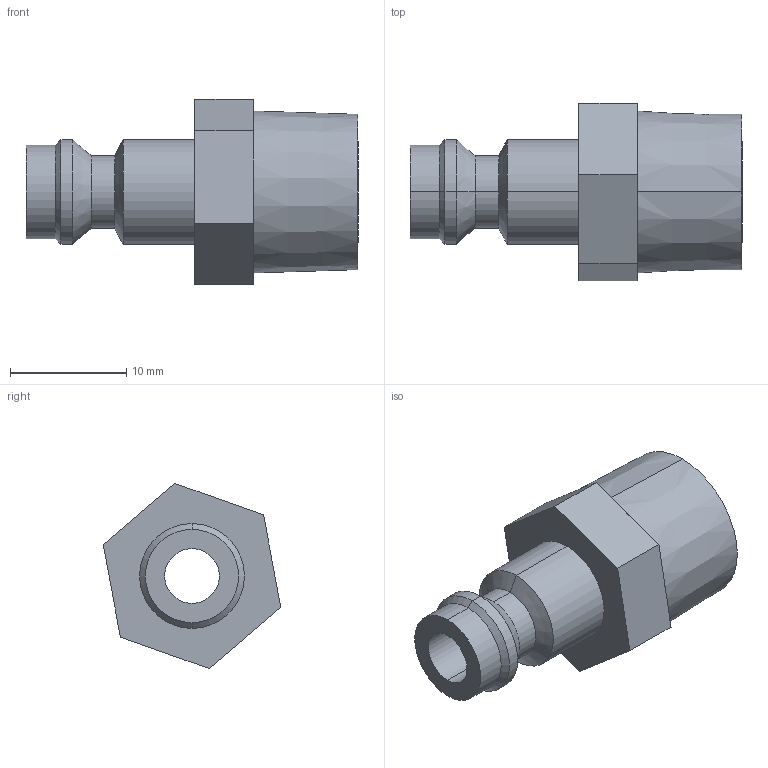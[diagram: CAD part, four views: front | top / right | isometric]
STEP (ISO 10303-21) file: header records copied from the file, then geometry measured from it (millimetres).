
FILE_DESCRIPTION (( 'STEP AP203' ), '1' );
FILE_NAME ('TZS-PM02P.STEP', '2024-01-12T00:37:23', ( 'E.mc' ), ( 'E.mc' ), 'SwSTEP 2.0', 'SolidWorks 2017', '' );
FILE_SCHEMA (( 'CONFIG_CONTROL_DESIGN' ));
Length unit declared in the file: millimetre
Products named in the file (1): TZS-PM02P
Bounding box: 28.5 x 15.24 x 15.89 mm (x, y, z)
Volume: 2081.7 mm3; surface area: 1851.2 mm2
Topology: 1 solids, 1 shells, 31 faces, 66 edges, 40 vertices
Faces by surface type: cylinder 12, plane 11, cone 8
Entity records: 913 total; most frequent: DIRECTION 158, CARTESIAN_POINT 138, ORIENTED_EDGE 132, EDGE_CURVE 66, AXIS2_PLACEMENT_3D 60, VERTEX_POINT 40, VECTOR 38, LINE 38
